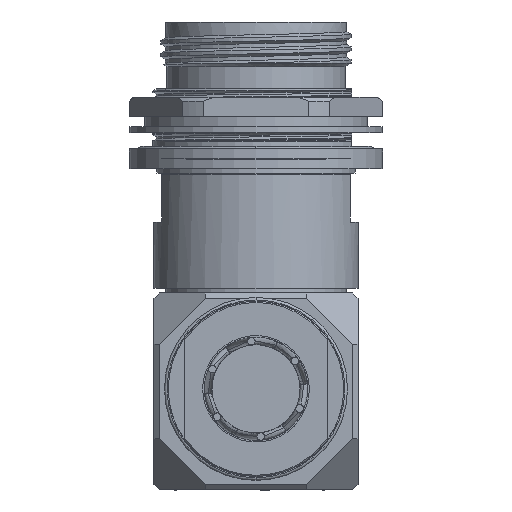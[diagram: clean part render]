
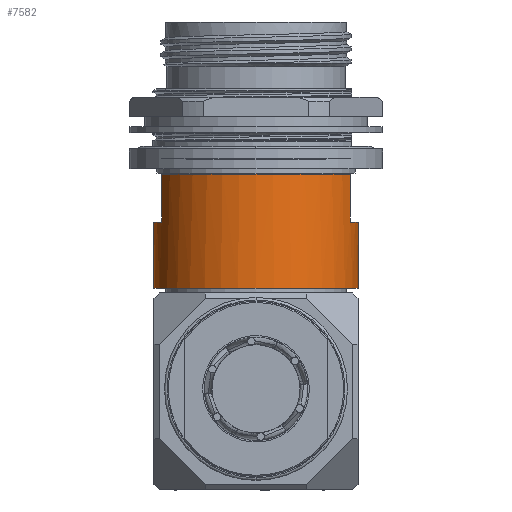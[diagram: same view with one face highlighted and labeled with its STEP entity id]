
A CAD part, front view. The second image highlights one B-rep face of the part: STEP entity #7582.
In plain terms, the highlighted cylindrical face has radius 20.447 mm (diameter 40.894 mm), a partial arc.
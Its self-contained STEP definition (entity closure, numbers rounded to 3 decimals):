
#856 = LINE ( 'NONE', #122468, #52751 ) ;
#1845 = VERTEX_POINT ( 'NONE', #35963 ) ;
#3727 = DIRECTION ( 'NONE',  ( 0., 0., 1. ) ) ;
#3924 = AXIS2_PLACEMENT_3D ( 'NONE', #127162, #117291, #27205 ) ;
#5451 = CARTESIAN_POINT ( 'NONE',  ( 18.796, -8.049, -30.328 ) ) ;
#7015 = ORIENTED_EDGE ( 'NONE', *, *, #21626, .F. ) ;
#7412 = CARTESIAN_POINT ( 'NONE',  ( 20.447, 0., -30.328 ) ) ;
#7582 = ADVANCED_FACE ( 'NONE', ( #32983 ), #33623, .T. ) ;
#8972 = VERTEX_POINT ( 'NONE', #103647 ) ;
#15537 = CARTESIAN_POINT ( 'NONE',  ( 0., 0., -39.853 ) ) ;
#16386 = DIRECTION ( 'NONE',  ( 0., 0., -1. ) ) ;
#21626 = EDGE_CURVE ( 'NONE', #85496, #96781, #39152, .T. ) ;
#27205 = DIRECTION ( 'NONE',  ( 1., 0., 0. ) ) ;
#27272 = EDGE_CURVE ( 'NONE', #40333, #85496, #94207, .T. ) ;
#28084 = CIRCLE ( 'NONE', #97460, 20.447 ) ;
#32983 = FACE_OUTER_BOUND ( 'NONE', #68794, .T. ) ;
#33623 = CYLINDRICAL_SURFACE ( 'NONE', #109755, 20.447 ) ;
#34583 = VERTEX_POINT ( 'NONE', #78175 ) ;
#35963 = CARTESIAN_POINT ( 'NONE',  ( 20.447, 0., -53.01 ) ) ;
#36398 = DIRECTION ( 'NONE',  ( 0., 0., 1. ) ) ;
#37175 = VECTOR ( 'NONE', #102779, 1000. ) ;
#39152 = CIRCLE ( 'NONE', #55986, 20.447 ) ;
#39655 = CIRCLE ( 'NONE', #43884, 20.447 ) ;
#39854 = ORIENTED_EDGE ( 'NONE', *, *, #63061, .F. ) ;
#40333 = VERTEX_POINT ( 'NONE', #82250 ) ;
#40473 = ORIENTED_EDGE ( 'NONE', *, *, #42268, .F. ) ;
#40960 = DIRECTION ( 'NONE',  ( 0., 0., 1. ) ) ;
#42268 = EDGE_CURVE ( 'NONE', #1845, #8972, #90090, .T. ) ;
#43884 = AXIS2_PLACEMENT_3D ( 'NONE', #96868, #36398, #87648 ) ;
#43963 = CARTESIAN_POINT ( 'NONE',  ( -20.447, 0., -30.328 ) ) ;
#47545 = DIRECTION ( 'NONE',  ( 0., 0., -1. ) ) ;
#51478 = VECTOR ( 'NONE', #47545, 1000. ) ;
#52751 = VECTOR ( 'NONE', #40960, 1000. ) ;
#52765 = CARTESIAN_POINT ( 'NONE',  ( 20.447, 0., -39.853 ) ) ;
#53624 = CARTESIAN_POINT ( 'NONE',  ( -18.796, -8.049, -39.853 ) ) ;
#54026 = DIRECTION ( 'NONE',  ( 0., 0., -1. ) ) ;
#55986 = AXIS2_PLACEMENT_3D ( 'NONE', #15537, #3727, #94447 ) ;
#57408 = LINE ( 'NONE', #7412, #51478 ) ;
#57889 = ORIENTED_EDGE ( 'NONE', *, *, #102085, .T. ) ;
#63061 = EDGE_CURVE ( 'NONE', #108126, #110506, #39655, .T. ) ;
#64331 = DIRECTION ( 'NONE',  ( 0., 0., -1. ) ) ;
#68794 = EDGE_LOOP ( 'NONE', ( #39854, #94329, #40473, #93529, #7015, #75999, #57889, #126920 ) ) ;
#75027 = DIRECTION ( 'NONE',  ( 1., 0., 0. ) ) ;
#75999 = ORIENTED_EDGE ( 'NONE', *, *, #27272, .F. ) ;
#78175 = CARTESIAN_POINT ( 'NONE',  ( -18.796, -8.049, -30.328 ) ) ;
#82250 = CARTESIAN_POINT ( 'NONE',  ( 18.796, -8.049, -30.328 ) ) ;
#85496 = VERTEX_POINT ( 'NONE', #108544 ) ;
#87145 = CARTESIAN_POINT ( 'NONE',  ( -20.447, 0., -39.853 ) ) ;
#87648 = DIRECTION ( 'NONE',  ( 0., 1., 0. ) ) ;
#90090 = CIRCLE ( 'NONE', #3924, 20.447 ) ;
#90653 = EDGE_CURVE ( 'NONE', #108126, #8972, #123515, .T. ) ;
#93529 = ORIENTED_EDGE ( 'NONE', *, *, #113565, .F. ) ;
#94207 = LINE ( 'NONE', #5451, #37175 ) ;
#94329 = ORIENTED_EDGE ( 'NONE', *, *, #90653, .T. ) ;
#94447 = DIRECTION ( 'NONE',  ( 1., 0., 0. ) ) ;
#96781 = VERTEX_POINT ( 'NONE', #52765 ) ;
#96868 = CARTESIAN_POINT ( 'NONE',  ( 0., 0., -39.853 ) ) ;
#97460 = AXIS2_PLACEMENT_3D ( 'NONE', #115023, #16386, #127494 ) ;
#100931 = VECTOR ( 'NONE', #64331, 1000. ) ;
#102085 = EDGE_CURVE ( 'NONE', #40333, #34583, #28084, .T. ) ;
#102779 = DIRECTION ( 'NONE',  ( 0., 0., -1. ) ) ;
#103647 = CARTESIAN_POINT ( 'NONE',  ( -20.447, 0., -53.01 ) ) ;
#103965 = CARTESIAN_POINT ( 'NONE',  ( 0., 0., -30.328 ) ) ;
#108126 = VERTEX_POINT ( 'NONE', #87145 ) ;
#108544 = CARTESIAN_POINT ( 'NONE',  ( 18.796, -8.049, -39.853 ) ) ;
#109755 = AXIS2_PLACEMENT_3D ( 'NONE', #103965, #54026, #75027 ) ;
#110506 = VERTEX_POINT ( 'NONE', #53624 ) ;
#113565 = EDGE_CURVE ( 'NONE', #96781, #1845, #57408, .T. ) ;
#115023 = CARTESIAN_POINT ( 'NONE',  ( 0., 0., -30.328 ) ) ;
#117291 = DIRECTION ( 'NONE',  ( 0., 0., -1. ) ) ;
#122468 = CARTESIAN_POINT ( 'NONE',  ( -18.796, -8.049, -30.328 ) ) ;
#123281 = EDGE_CURVE ( 'NONE', #110506, #34583, #856, .T. ) ;
#123515 = LINE ( 'NONE', #43963, #100931 ) ;
#126920 = ORIENTED_EDGE ( 'NONE', *, *, #123281, .F. ) ;
#127162 = CARTESIAN_POINT ( 'NONE',  ( 0., 0., -53.01 ) ) ;
#127494 = DIRECTION ( 'NONE',  ( 1., 0., 0. ) ) ;
